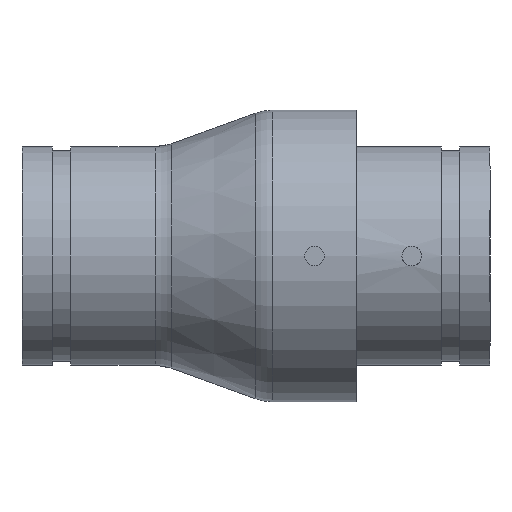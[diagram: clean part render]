
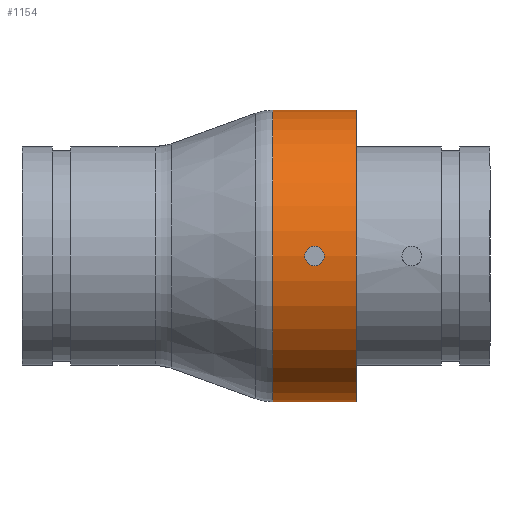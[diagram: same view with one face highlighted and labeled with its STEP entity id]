
A CAD part, front view. The second image highlights one B-rep face of the part: STEP entity #1154.
In plain terms, the highlighted cylindrical face has radius 76.2 mm (diameter 152.4 mm), a partial arc.
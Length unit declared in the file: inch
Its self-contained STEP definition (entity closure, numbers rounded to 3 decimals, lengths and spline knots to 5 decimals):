
#25=FACE_BOUND('',#244,.T.);
#86=CIRCLE('',#1250,3.);
#103=CIRCLE('',#1289,3.);
#178=FACE_OUTER_BOUND('',#243,.T.);
#243=EDGE_LOOP('',(#920,#921,#922,#923));
#244=EDGE_LOOP('',(#924,#925));
#341=LINE('',#1910,#413);
#342=LINE('',#1915,#414);
#351=LINE('',#2082,#423);
#413=VECTOR('',#1501,0.3937);
#414=VECTOR('',#1508,0.3937);
#423=VECTOR('',#1591,0.3937);
#491=VERTEX_POINT('',#1898);
#492=VERTEX_POINT('',#1900);
#495=VERTEX_POINT('',#1908);
#496=VERTEX_POINT('',#1914);
#511=VERTEX_POINT('',#2080);
#512=VERTEX_POINT('',#2081);
#621=EDGE_CURVE('',#491,#492,#86,.T.);
#626=EDGE_CURVE('',#491,#495,#341,.T.);
#628=EDGE_CURVE('',#492,#496,#342,.T.);
#658=EDGE_CURVE('',#496,#495,#103,.T.);
#660=EDGE_CURVE('',#511,#512,#351,.T.);
#920=ORIENTED_EDGE('',*,*,#658,.F.);
#921=ORIENTED_EDGE('',*,*,#628,.F.);
#922=ORIENTED_EDGE('',*,*,#621,.F.);
#923=ORIENTED_EDGE('',*,*,#626,.T.);
#924=ORIENTED_EDGE('',*,*,#660,.T.);
#925=ORIENTED_EDGE('',*,*,#660,.F.);
#1035=CYLINDRICAL_SURFACE('',#1292,3.);
#1154=ADVANCED_FACE('',(#178,#25),#1035,.T.);
#1250=AXIS2_PLACEMENT_3D('',#1901,#1492,#1493);
#1289=AXIS2_PLACEMENT_3D('',#2076,#1583,#1584);
#1292=AXIS2_PLACEMENT_3D('',#2079,#1589,#1590);
#1492=DIRECTION('center_axis',(1.,0.,0.));
#1493=DIRECTION('ref_axis',(0.,0.,1.));
#1501=DIRECTION('',(-1.,0.,0.));
#1508=DIRECTION('',(-1.,0.,0.));
#1583=DIRECTION('center_axis',(-1.,0.,0.));
#1584=DIRECTION('ref_axis',(0.,-1.,0.));
#1589=DIRECTION('center_axis',(-1.,0.,0.));
#1590=DIRECTION('ref_axis',(0.,0.,1.));
#1591=DIRECTION('',(-1.,0.,0.));
#1898=CARTESIAN_POINT('',(6.88,0.,3.));
#1900=CARTESIAN_POINT('',(6.88,0.,-3.));
#1901=CARTESIAN_POINT('Origin',(6.88,0.,0.));
#1908=CARTESIAN_POINT('',(5.15633,0.,3.));
#1910=CARTESIAN_POINT('',(6.88,0.,3.));
#1914=CARTESIAN_POINT('',(5.15633,0.,-3.));
#1915=CARTESIAN_POINT('',(6.88,0.,-3.));
#2076=CARTESIAN_POINT('Origin',(5.15633,0.,0.));
#2079=CARTESIAN_POINT('Origin',(6.88,0.,0.));
#2080=CARTESIAN_POINT('',(6.21816,-3.,0.));
#2081=CARTESIAN_POINT('',(5.81816,-3.,0.));
#2082=CARTESIAN_POINT('',(6.88,-3.,0.));
